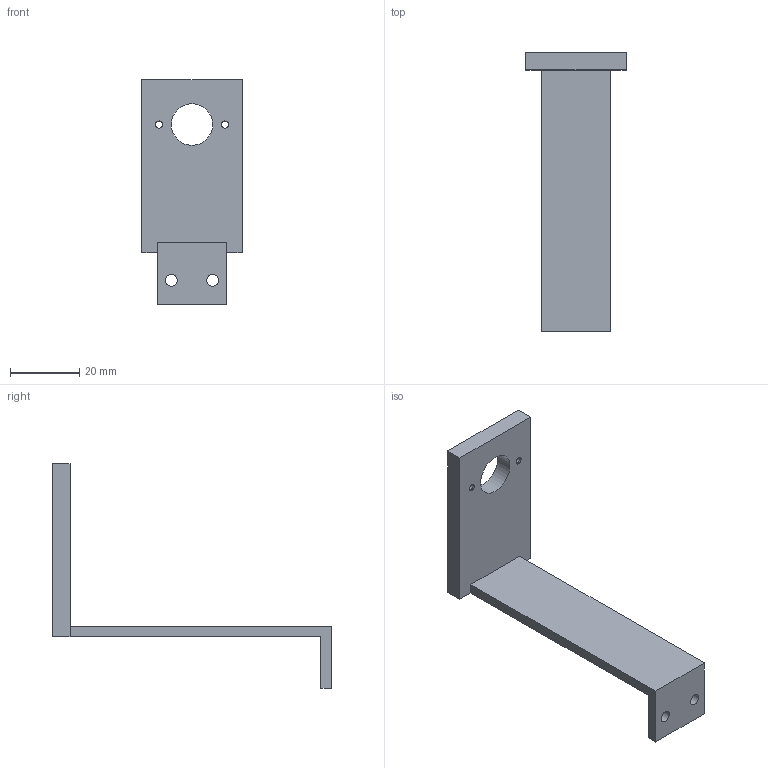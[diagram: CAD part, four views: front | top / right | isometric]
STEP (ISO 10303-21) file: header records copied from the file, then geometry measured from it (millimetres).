
FILE_DESCRIPTION(('Open CASCADE Model'),'2;1');
FILE_NAME('Open CASCADE Shape Model','2026-10-18T22:58:20',('Author'),( 'Open CASCADE'),'Open CASCADE STEP processor 7.9','Open CASCADE 7.9' ,'Unknown');
FILE_SCHEMA(('AUTOMOTIVE_DESIGN { 1 0 10303 214 1 1 1 1 }'));
Length unit declared in the file: millimetre
Products named in the file (1): Open CASCADE STEP translator 7.9 18
Bounding box: 29 x 80.5 x 65 mm (x, y, z)
Volume: 12027 mm3; surface area: 7894.3 mm2
Topology: 1 solids, 1 shells, 19 faces, 49 edges, 32 vertices
Faces by surface type: plane 12, cylinder 7
Full cylindrical faces by diameter (mm): 2.05 x4, 3.4 x2, 12 x1
Entity records: 1270 total; most frequent: CARTESIAN_POINT 247, DIRECTION 191, LINE 125, VECTOR 125, ORIENTED_EDGE 98, PCURVE 98, DEFINITIONAL_REPRESENTATION 98, EDGE_CURVE 49
